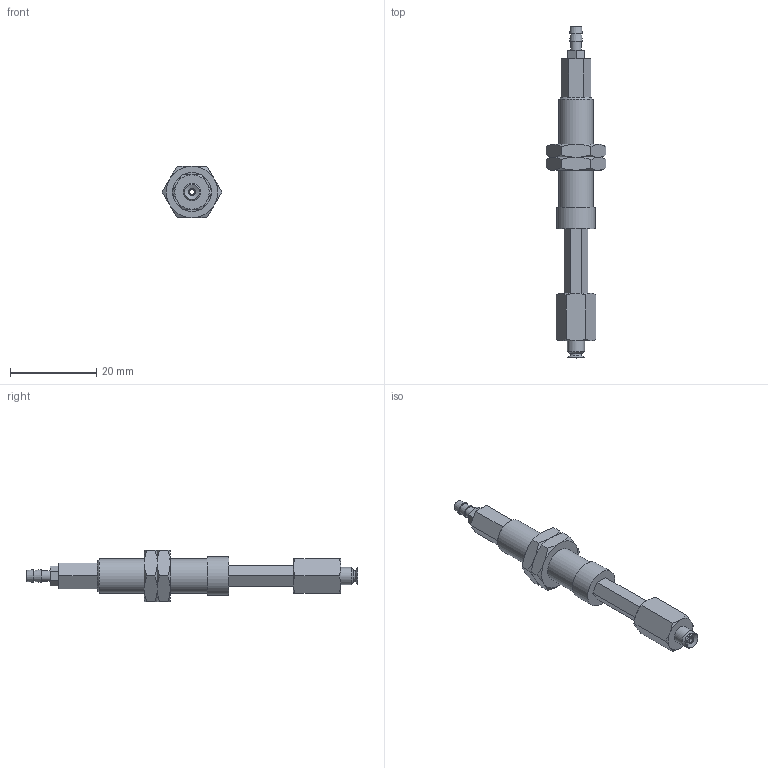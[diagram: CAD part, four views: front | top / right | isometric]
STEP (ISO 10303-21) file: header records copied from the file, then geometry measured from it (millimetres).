
FILE_DESCRIPTION(('STEP AP203'),'1');
FILE_NAME('-T.stp','2025-08-27T02:46:43',(' '),(' '),'Spatial InterOp 3D',' ',' ');
FILE_SCHEMA(('CONFIG_CONTROL_DESIGN'));
Length unit declared in the file: millimetre
Products named in the file (7): BNABPFTH-3.5A-15-※-T; ADAPTER; NAPFTH-2A-15-MBODY; Nut-3.5A-15-h; NAPFTH-3.5A-15-FBODY; BPFG-3.5A-※; T (2)
Assembly tree (7 placements, depth 2):
  BNABPFTH-3.5A-15-※-T
    ADAPTER
    NAPFTH-2A-15-MBODY
    Nut-3.5A-15-h  x2
    NAPFTH-3.5A-15-FBODY
    BPFG-3.5A-※
    T (2)
Bounding box: 13.86 x 77.1 x 12 mm (x, y, z)
Volume: 3286.8 mm3; surface area: 4009.4 mm2
Topology: 7 solids, 7 shells, 139 faces, 295 edges, 180 vertices
Faces by surface type: plane 66, cone 49, cylinder 16, torus 7, bspline 1
Full cylindrical faces by diameter (mm): 1.2 x4, 2 x2, 2.459 x1, 2.5 x1, 3 x3, 4 x1, 7.188 x2, 8 x1, 9 x1
Entity records: 3449 total; most frequent: CARTESIAN_POINT 791, DIRECTION 478, ORIENTED_EDGE 412, EDGE_CURVE 206, AXIS2_PLACEMENT_3D 197, EDGE_LOOP 172, VERTEX_POINT 146, FACE_OUTER_BOUND 139
